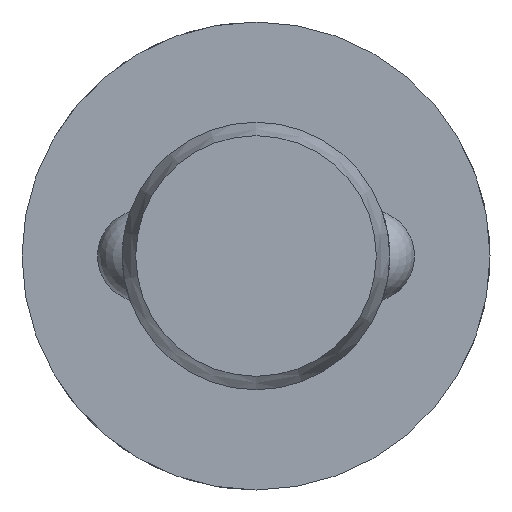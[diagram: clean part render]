
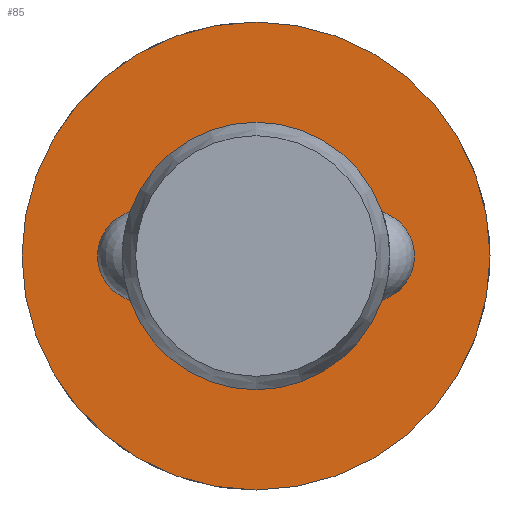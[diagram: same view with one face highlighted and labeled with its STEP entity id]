
A CAD part, left-side view. The second image highlights one B-rep face of the part: STEP entity #85.
In plain terms, the highlighted planar face has unit normal (-1, 0, 0).
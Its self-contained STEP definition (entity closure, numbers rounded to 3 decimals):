
#85 = ADVANCED_FACE( '', ( #130, #131 ), #132, .F. );
#130 = FACE_OUTER_BOUND( '', #200, .T. );
#131 = FACE_BOUND( '', #201, .T. );
#132 = PLANE( '', #202 );
#200 = EDGE_LOOP( '', ( #315 ) );
#201 = EDGE_LOOP( '', ( #316 ) );
#202 = AXIS2_PLACEMENT_3D( '', #317, #318, #319 );
#315 = ORIENTED_EDGE( '', *, *, #458, .F. );
#316 = ORIENTED_EDGE( '', *, *, #455, .T. );
#317 = CARTESIAN_POINT( '', ( 98.2, 4., 0. ) );
#318 = DIRECTION( '', ( 1., 0., 0. ) );
#319 = DIRECTION( '', ( 0., 0., -1. ) );
#455 = EDGE_CURVE( '', #528, #528, #529, .T. );
#458 = EDGE_CURVE( '', #534, #534, #535, .T. );
#528 = VERTEX_POINT( '', #732 );
#529 = CIRCLE( '', #733, 4. );
#534 = VERTEX_POINT( '', #820 );
#535 = CIRCLE( '', #821, 7. );
#732 = CARTESIAN_POINT( '', ( 98.2, 0., -4. ) );
#733 = AXIS2_PLACEMENT_3D( '', #898, #899, #900 );
#820 = CARTESIAN_POINT( '', ( 98.2, 0., -7. ) );
#821 = AXIS2_PLACEMENT_3D( '', #901, #902, #903 );
#898 = CARTESIAN_POINT( '', ( 98.2, 0., 0. ) );
#899 = DIRECTION( '', ( 1., 0., 0. ) );
#900 = DIRECTION( '', ( 0., 0., -1. ) );
#901 = CARTESIAN_POINT( '', ( 98.2, 0., 0. ) );
#902 = DIRECTION( '', ( 1., 0., 0. ) );
#903 = DIRECTION( '', ( 0., 0., -1. ) );
